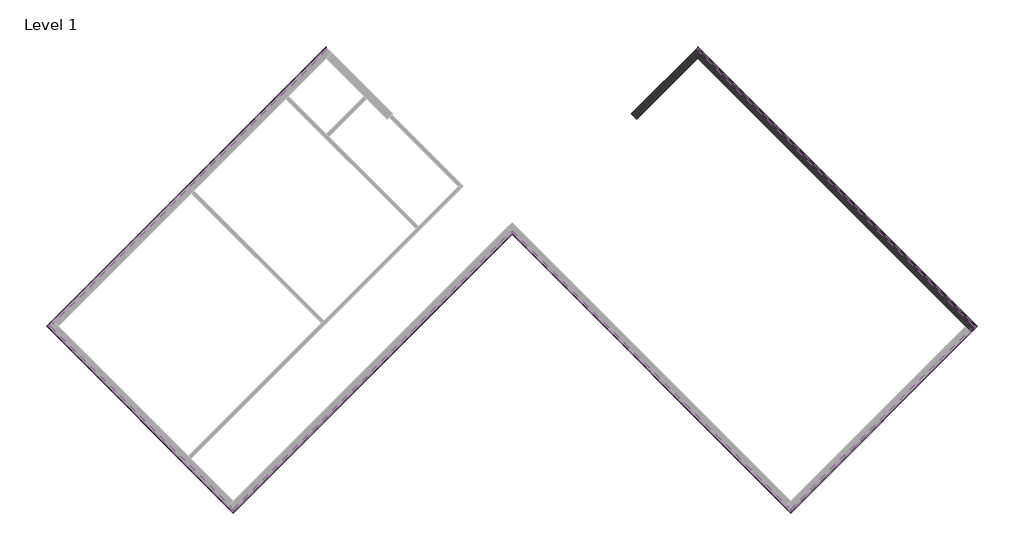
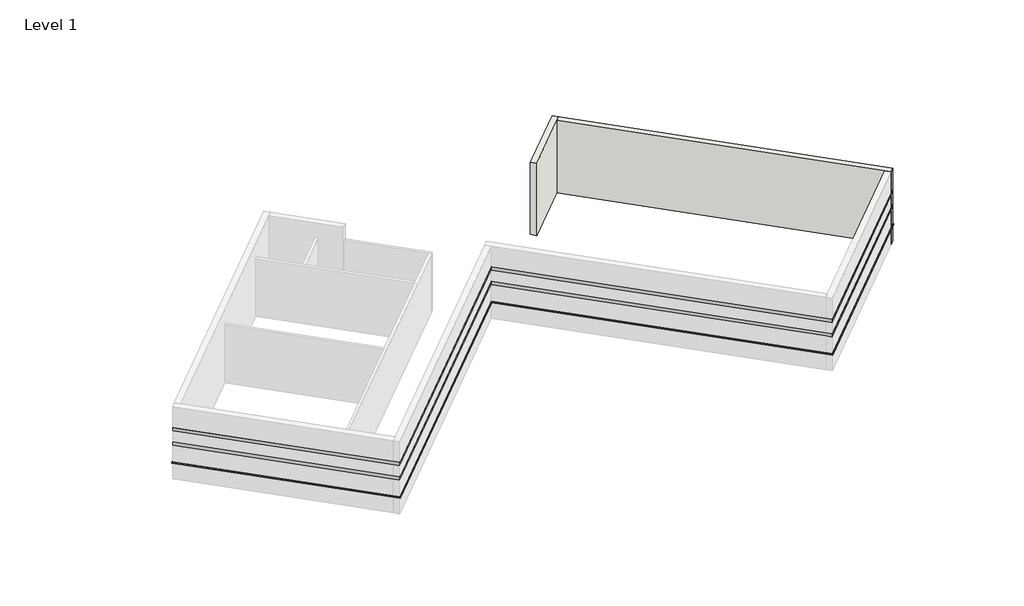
# One storey, part 2 of 2: 18 proxies, 2 walls.
"""IFC4 building model written with IfcOpenShell, lengths in millimetres."""

from ifc_helpers import new_model, si_unit, frame, origin, place, context, project, spatial, polyline, circle_curve, faceted_brep, element, save
from ifc_brep_helpers import plane_surface, cylinder_surface, revolved_surface, advanced_brep

model = new_model("IFC4")

# Units and contexts
model_context = context("Model", 3, world=origin())
ifc_project = project(units=[si_unit("LENGTHUNIT", "METRE", prefix="MILLI")], contexts=[model_context])

# Site, building, storey
site = spatial("IfcSite", under=ifc_project)
building = spatial("IfcBuilding", under=site)
storey = spatial("IfcBuildingStorey", under=building, Name="Level 1", Elevation=0.0)

# Proxies
placement = place(None, origin())
element("IfcBuildingElementProxy", 1, Name="Wall Sweeps", at=placement, inside=storey, context=model_context, shape_type="Brep", body=[
    faceted_brep([(5753.0175119, 11443.3655905, 1085.85), (5753.0175119, 11573.5793042, 1085.85), (5753.0175119, 11622.9707129, 1041.4), (5753.0175119, 11622.9707129, 1016.0), (5753.0175119, 11443.3655905, 1016.0), (18554.3726125, -1357.9895101, 1085.85), (18554.3726125, -1357.9895101, 1016.0), (18733.9777349, -1357.9895101, 1016.0), (18733.9777349, -1357.9895101, 1041.4), (18684.5863263, -1357.9895101, 1085.85), (5937.1127624, 11259.27034, 1085.85), (5937.1127624, 11259.27034, 1016.0)], [[[0, 1, 2, 3, 4]], [[5, 6, 7, 8, 9]], [[1, 0, 10, 5, 9]], [[2, 1, 9, 8]], [[3, 2, 8, 7]], [[4, 3, 7, 6, 11]], [[0, 4, 11, 6, 5, 10]]]),
])
element("IfcBuildingElementProxy", 2, Name="Wall Sweeps", at=placement, inside=storey, context=model_context, shape_type="Brep", body=[
    faceted_brep([(5753.0175119, 11573.5793042, 2336.8), (5753.0175119, 11573.5793042, 2133.6), (5753.0175119, 11443.3655905, 2133.6), (5753.0175119, 11443.3655905, 2336.8), (18684.5863263, -1357.9895101, 2336.8), (18554.3726125, -1357.9895101, 2336.8), (18554.3726125, -1357.9895101, 2133.6), (18684.5863263, -1357.9895101, 2133.6), (6002.2196193, 11324.3771969, 2336.8), (6002.2196193, 11324.3771969, 2133.6), (5937.1127624, 11259.27034, 2133.6), (5937.1127624, 11259.27034, 2336.8)], [[[0, 1, 2, 3]], [[4, 5, 6, 7]], [[1, 0, 8, 4, 7, 9]], [[2, 1, 9, 7, 6, 10]], [[3, 2, 10, 6, 5, 11]], [[0, 3, 11, 5, 4, 8]]]),
])
element("IfcBuildingElementProxy", 3, Name="Wall Sweeps", at=placement, inside=storey, context=model_context, shape_type="Brep", body=[
    faceted_brep([(5753.0175119, 11573.5793042, 3251.2), (5753.0175119, 11573.5793042, 3048.0), (5753.0175119, 11443.3655905, 3048.0), (5753.0175119, 11443.3655905, 3251.2), (18684.5863263, -1357.9895101, 3251.2), (18554.3726125, -1357.9895101, 3251.2), (18554.3726125, -1357.9895101, 3048.0), (18684.5863263, -1357.9895101, 3048.0), (6002.2196193, 11324.3771969, 3251.2), (6002.2196193, 11324.3771969, 3048.0), (5937.1127624, 11259.27034, 3048.0), (5937.1127624, 11259.27034, 3251.2)], [[[0, 1, 2, 3]], [[4, 5, 6, 7]], [[1, 0, 8, 4, 7, 9]], [[2, 1, 9, 7, 6, 10]], [[3, 2, 10, 6, 5, 11]], [[0, 3, 11, 5, 4, 8]]]),
])
element("IfcBuildingElementProxy", 4, Name="Wall Sweeps", at=placement, inside=storey, context=model_context, shape_type="Brep", body=[
    faceted_brep([(18554.3726125, -1357.9895101, 1085.85), (18684.5863263, -1357.9895101, 1085.85), (18733.9777349, -1357.9895101, 1041.4), (18733.9777349, -1357.9895101, 1016.0), (18554.3726125, -1357.9895101, 1016.0), (10063.54045, -9848.8216726, 1085.85), (10063.54045, -9848.8216726, 1016.0), (10063.54045, -10028.426795, 1016.0), (10063.54045, -10028.426795, 1041.4), (10063.54045, -9979.0353863, 1085.85), (18370.277362, -1542.0847606, 1085.85), (18370.277362, -1542.0847606, 1016.0)], [[[0, 1, 2, 3, 4]], [[5, 6, 7, 8, 9]], [[1, 0, 10, 5, 9]], [[2, 1, 9, 8]], [[3, 2, 8, 7]], [[4, 3, 7, 6, 11]], [[0, 4, 11, 6, 5, 10]]]),
])
element("IfcBuildingElementProxy", 5, Name="Wall Sweeps", at=placement, inside=storey, context=model_context, shape_type="Brep", body=[
    faceted_brep([(18684.5863263, -1357.9895101, 2336.8), (18684.5863263, -1357.9895101, 2133.6), (18554.3726125, -1357.9895101, 2133.6), (18554.3726125, -1357.9895101, 2336.8), (10063.54045, -9979.0353863, 2336.8), (10063.54045, -9848.8216726, 2336.8), (10063.54045, -9848.8216726, 2133.6), (10063.54045, -9979.0353863, 2133.6), (18435.3842189, -1607.1916175, 2336.8), (18435.3842189, -1607.1916175, 2133.6), (18370.277362, -1542.0847606, 2133.6), (18370.277362, -1542.0847606, 2336.8)], [[[0, 1, 2, 3]], [[4, 5, 6, 7]], [[1, 0, 8, 4, 7, 9]], [[2, 1, 9, 7, 6, 10]], [[3, 2, 10, 6, 5, 11]], [[0, 3, 11, 5, 4, 8]]]),
])
element("IfcBuildingElementProxy", 6, Name="Wall Sweeps", at=placement, inside=storey, context=model_context, shape_type="Brep", body=[
    faceted_brep([(18684.5863263, -1357.9895101, 3251.2), (18684.5863263, -1357.9895101, 3048.0), (18554.3726125, -1357.9895101, 3048.0), (18554.3726125, -1357.9895101, 3251.2), (10063.54045, -9979.0353863, 3251.2), (10063.54045, -9848.8216726, 3251.2), (10063.54045, -9848.8216726, 3048.0), (10063.54045, -9979.0353863, 3048.0), (18435.3842189, -1607.1916175, 3251.2), (18435.3842189, -1607.1916175, 3048.0), (18370.277362, -1542.0847606, 3048.0), (18370.277362, -1542.0847606, 3251.2)], [[[0, 1, 2, 3]], [[4, 5, 6, 7]], [[1, 0, 8, 4, 7, 9]], [[2, 1, 9, 7, 6, 10]], [[3, 2, 10, 6, 5, 11]], [[0, 3, 11, 5, 4, 8]]]),
])
element("IfcBuildingElementProxy", 7, Name="Wall Sweeps", at=placement, inside=storey, context=model_context, shape_type="Brep", body=[
    faceted_brep([(10063.54045, -9848.8216726, 1085.85), (10063.54045, -9979.0353863, 1085.85), (10063.54045, -10028.426795, 1041.4), (10063.54045, -10028.426795, 1016.0), (10063.54045, -9848.8216726, 1016.0), (-2868.0283643, 3082.7471418, 1085.85), (-2868.0283643, 3082.7471418, 1016.0), (-2868.0283643, 2903.1420194, 1016.0), (-2868.0283643, 2903.1420194, 1041.4), (-2868.0283643, 2952.533428, 1085.85), (9879.4451996, -9664.7264221, 1085.85), (9879.4451996, -9664.7264221, 1016.0)], [[[0, 1, 2, 3, 4]], [[5, 6, 7, 8, 9]], [[1, 0, 10, 5, 9]], [[2, 1, 9, 8]], [[3, 2, 8, 7]], [[4, 3, 7, 6, 11]], [[0, 4, 11, 6, 5, 10]]]),
])
element("IfcBuildingElementProxy", 8, Name="Wall Sweeps", at=placement, inside=storey, context=model_context, shape_type="Brep", body=[
    faceted_brep([(10063.54045, -9979.0353863, 2336.8), (10063.54045, -9979.0353863, 2133.6), (10063.54045, -9848.8216726, 2133.6), (10063.54045, -9848.8216726, 2336.8), (-2868.0283643, 2952.533428, 2336.8), (-2868.0283643, 3082.7471418, 2336.8), (-2868.0283643, 3082.7471418, 2133.6), (-2868.0283643, 2952.533428, 2133.6), (9814.3383427, -9729.833279, 2336.8), (9814.3383427, -9729.833279, 2133.6), (9879.4451996, -9664.7264221, 2133.6), (9879.4451996, -9664.7264221, 2336.8)], [[[0, 1, 2, 3]], [[4, 5, 6, 7]], [[1, 0, 8, 4, 7, 9]], [[2, 1, 9, 7, 6, 10]], [[3, 2, 10, 6, 5, 11]], [[0, 3, 11, 5, 4, 8]]]),
])
element("IfcBuildingElementProxy", 9, Name="Wall Sweeps", at=placement, inside=storey, context=model_context, shape_type="Brep", body=[
    faceted_brep([(10063.54045, -9979.0353863, 3251.2), (10063.54045, -9979.0353863, 3048.0), (10063.54045, -9848.8216726, 3048.0), (10063.54045, -9848.8216726, 3251.2), (-2868.0283643, 2952.533428, 3251.2), (-2868.0283643, 3082.7471418, 3251.2), (-2868.0283643, 3082.7471418, 3048.0), (-2868.0283643, 2952.533428, 3048.0), (9814.3383427, -9729.833279, 3251.2), (9814.3383427, -9729.833279, 3048.0), (9879.4451996, -9664.7264221, 3048.0), (9879.4451996, -9664.7264221, 3251.2)], [[[0, 1, 2, 3]], [[4, 5, 6, 7]], [[1, 0, 8, 4, 7, 9]], [[2, 1, 9, 7, 6, 10]], [[3, 2, 10, 6, 5, 11]], [[0, 3, 11, 5, 4, 8]]]),
])
element("IfcBuildingElementProxy", 10, Name="Wall Sweeps", at=placement, inside=storey, context=model_context, shape_type="Brep", body=[
    faceted_brep([(-2868.0283643, 3082.7471418, 1085.85), (-2868.0283643, 2952.533428, 1085.85), (-2868.0283643, 2903.1420194, 1041.4), (-2868.0283643, 2903.1420194, 1016.0), (-2868.0283643, 3082.7471418, 1016.0), (-15799.5971786, -9848.8216726, 1085.85), (-15799.5971786, -9848.8216726, 1016.0), (-15799.5971786, -10028.426795, 1016.0), (-15799.5971786, -10028.426795, 1041.4), (-15799.5971786, -9979.0353863, 1085.85), (-2933.1352212, 3017.6402849, 1085.85), (-2933.1352212, 3017.6402849, 1016.0)], [[[0, 1, 2, 3, 4]], [[5, 6, 7, 8, 9]], [[1, 0, 10, 5, 9]], [[2, 1, 9, 8]], [[3, 2, 8, 7]], [[4, 3, 7, 6, 11]], [[0, 4, 11, 6, 5, 10]]]),
])
element("IfcBuildingElementProxy", 11, Name="Wall Sweeps", at=placement, inside=storey, context=model_context, shape_type="Brep", body=[
    faceted_brep([(-2868.0283643, 2952.533428, 2336.8), (-2868.0283643, 2952.533428, 2133.6), (-2868.0283643, 3082.7471418, 2133.6), (-2868.0283643, 3082.7471418, 2336.8), (-15799.5971786, -9979.0353863, 2336.8), (-15799.5971786, -9848.8216726, 2336.8), (-15799.5971786, -9848.8216726, 2133.6), (-15799.5971786, -9979.0353863, 2133.6), (-2933.1352212, 3017.6402849, 2133.6), (-2933.1352212, 3017.6402849, 2336.8)], [[[0, 1, 2, 3]], [[4, 5, 6, 7]], [[1, 0, 4, 7]], [[2, 1, 7, 6, 8]], [[3, 2, 8, 6, 5, 9]], [[0, 3, 9, 5, 4]]]),
])
element("IfcBuildingElementProxy", 12, Name="Wall Sweeps", at=placement, inside=storey, context=model_context, shape_type="Brep", body=[
    faceted_brep([(-2868.0283643, 2952.533428, 3251.2), (-2868.0283643, 2952.533428, 3048.0), (-2868.0283643, 3082.7471418, 3048.0), (-2868.0283643, 3082.7471418, 3251.2), (-15799.5971786, -9979.0353863, 3251.2), (-15799.5971786, -9848.8216726, 3251.2), (-15799.5971786, -9848.8216726, 3048.0), (-15799.5971786, -9979.0353863, 3048.0), (-2933.1352212, 3017.6402849, 3048.0), (-2933.1352212, 3017.6402849, 3251.2)], [[[0, 1, 2, 3]], [[4, 5, 6, 7]], [[1, 0, 4, 7]], [[2, 1, 7, 6, 8]], [[3, 2, 8, 6, 5, 9]], [[0, 3, 9, 5, 4]]]),
])
element("IfcBuildingElementProxy", 13, Name="Wall Sweeps", at=placement, inside=storey, context=model_context, shape_type="Brep", body=[
    faceted_brep([(-15799.5971786, -9848.8216726, 1085.85), (-15799.5971786, -9979.0353863, 1085.85), (-15799.5971786, -10028.426795, 1041.4), (-15799.5971786, -10028.426795, 1016.0), (-15799.5971786, -9848.8216726, 1016.0), (-24290.4293411, -1357.9895101, 1085.85), (-24290.4293411, -1357.9895101, 1016.0), (-24470.0344635, -1357.9895101, 1016.0), (-24470.0344635, -1357.9895101, 1041.4), (-24420.6430549, -1357.9895101, 1085.85), (-15983.6924291, -9664.7264221, 1085.85), (-15983.6924291, -9664.7264221, 1016.0)], [[[0, 1, 2, 3, 4]], [[5, 6, 7, 8, 9]], [[1, 0, 10, 5, 9]], [[2, 1, 9, 8]], [[3, 2, 8, 7]], [[4, 3, 7, 6, 11]], [[0, 4, 11, 6, 5, 10]]]),
])
element("IfcBuildingElementProxy", 14, Name="Wall Sweeps", at=placement, inside=storey, context=model_context, shape_type="Brep", body=[
    faceted_brep([(-15799.5971786, -9979.0353863, 2336.8), (-15799.5971786, -9979.0353863, 2133.6), (-15799.5971786, -9848.8216726, 2133.6), (-15799.5971786, -9848.8216726, 2336.8), (-24420.6430549, -1357.9895101, 2336.8), (-24290.4293411, -1357.9895101, 2336.8), (-24290.4293411, -1357.9895101, 2133.6), (-24420.6430549, -1357.9895101, 2133.6), (-16048.799286, -9729.833279, 2336.8), (-16048.799286, -9729.833279, 2133.6), (-15983.6924291, -9664.7264221, 2133.6), (-15983.6924291, -9664.7264221, 2336.8)], [[[0, 1, 2, 3]], [[4, 5, 6, 7]], [[1, 0, 8, 4, 7, 9]], [[2, 1, 9, 7, 6, 10]], [[3, 2, 10, 6, 5, 11]], [[0, 3, 11, 5, 4, 8]]]),
])
element("IfcBuildingElementProxy", 15, Name="Wall Sweeps", at=placement, inside=storey, context=model_context, shape_type="Brep", body=[
    faceted_brep([(-15799.5971786, -9979.0353863, 3251.2), (-15799.5971786, -9979.0353863, 3048.0), (-15799.5971786, -9848.8216726, 3048.0), (-15799.5971786, -9848.8216726, 3251.2), (-24420.6430549, -1357.9895101, 3251.2), (-24290.4293411, -1357.9895101, 3251.2), (-24290.4293411, -1357.9895101, 3048.0), (-24420.6430549, -1357.9895101, 3048.0), (-16048.799286, -9729.833279, 3251.2), (-16048.799286, -9729.833279, 3048.0), (-15983.6924291, -9664.7264221, 3048.0), (-15983.6924291, -9664.7264221, 3251.2)], [[[0, 1, 2, 3]], [[4, 5, 6, 7]], [[1, 0, 8, 4, 7, 9]], [[2, 1, 9, 7, 6, 10]], [[3, 2, 10, 6, 5, 11]], [[0, 3, 11, 5, 4, 8]]]),
])
element("IfcBuildingElementProxy", 16, Name="Wall Sweeps", at=placement, inside=storey, context=model_context, shape_type="Brep", body=[
    faceted_brep([(-24290.4293411, -1357.9895101, 1085.85), (-24420.6430549, -1357.9895101, 1085.85), (-24470.0344635, -1357.9895101, 1041.4), (-24470.0344635, -1357.9895101, 1016.0), (-24290.4293411, -1357.9895101, 1016.0), (-11489.0742405, 11443.3655905, 1085.85), (-11489.0742405, 11443.3655905, 1016.0), (-11489.0742405, 11622.9707129, 1016.0), (-11489.0742405, 11622.9707129, 1041.4), (-11489.0742405, 11573.5793042, 1085.85), (-24106.3340906, -1173.8942596, 1085.85), (-24106.3340906, -1173.8942596, 1016.0)], [[[0, 1, 2, 3, 4]], [[5, 6, 7, 8, 9]], [[1, 0, 10, 5, 9]], [[2, 1, 9, 8]], [[3, 2, 8, 7]], [[4, 3, 7, 6, 11]], [[0, 4, 11, 6, 5, 10]]]),
])
element("IfcBuildingElementProxy", 17, Name="Wall Sweeps", at=placement, inside=storey, context=model_context, shape_type="Brep", body=[
    faceted_brep([(-24420.6430549, -1357.9895101, 2336.8), (-24420.6430549, -1357.9895101, 2133.6), (-24290.4293411, -1357.9895101, 2133.6), (-24290.4293411, -1357.9895101, 2336.8), (-11489.0742405, 11573.5793042, 2336.8), (-11489.0742405, 11443.3655905, 2336.8), (-11489.0742405, 11443.3655905, 2133.6), (-11489.0742405, 11573.5793042, 2133.6), (-24171.4409475, -1108.7874027, 2336.8), (-24171.4409475, -1108.7874027, 2133.6), (-24106.3340906, -1173.8942596, 2133.6), (-24106.3340906, -1173.8942596, 2336.8)], [[[0, 1, 2, 3]], [[4, 5, 6, 7]], [[1, 0, 8, 4, 7, 9]], [[2, 1, 9, 7, 6, 10]], [[3, 2, 10, 6, 5, 11]], [[0, 3, 11, 5, 4, 8]]]),
])
element("IfcBuildingElementProxy", 18, Name="Wall Sweeps", at=placement, inside=storey, context=model_context, shape_type="Brep", body=[
    faceted_brep([(-24420.6430549, -1357.9895101, 3251.2), (-24420.6430549, -1357.9895101, 3048.0), (-24290.4293411, -1357.9895101, 3048.0), (-24290.4293411, -1357.9895101, 3251.2), (-11489.0742405, 11573.5793042, 3251.2), (-11489.0742405, 11443.3655905, 3251.2), (-11489.0742405, 11443.3655905, 3048.0), (-11489.0742405, 11573.5793042, 3048.0), (-24171.4409475, -1108.7874027, 3251.2), (-24171.4409475, -1108.7874027, 3048.0), (-24106.3340906, -1173.8942596, 3048.0), (-24106.3340906, -1173.8942596, 3251.2)], [[[0, 1, 2, 3]], [[4, 5, 6, 7]], [[1, 0, 8, 4, 7, 9]], [[2, 1, 9, 7, 6, 10]], [[3, 2, 10, 6, 5, 11]], [[0, 3, 11, 5, 4, 8]]]),
])

# Walls
element("IfcWall", 19, ObjectType="Exterior - Split Face and CMU on Mtl. Stud", at=placement, inside=storey, context=model_context, shape_type="AdvancedBrep", body=[
    advanced_brep(
    [(2921.9555443, 8244.1131219, 0.0), (5753.0175119, 11075.1750895, 0.0), (6002.2196193, 11324.3771969, 0.0), (6002.2196193, 11324.3771969, 1016.0), (5937.1127624, 11259.27034, 1016.0), (5937.1127624, 11259.27034, 1085.85), (6002.2196193, 11324.3771969, 1085.85), (6002.2196193, 11324.3771969, 2133.6), (5937.1127624, 11259.27034, 2133.6), (5937.1127624, 11259.27034, 2336.8), (6002.2196193, 11324.3771969, 2336.8), (6002.2196193, 11324.3771969, 3048.0), (5937.1127624, 11259.27034, 3048.0), (5937.1127624, 11259.27034, 3251.2), (6002.2196193, 11324.3771969, 3251.2), (6002.2196193, 11324.3771969, 4572.0), (5753.0175119, 11075.1750895, 4572.0), (2921.9555443, 8244.1131219, 4572.0), (2677.2250436, 8497.7868359, 4572.0), (2926.4294954, 8746.9912878, 4572.0), (5753.0175119, 11573.5793042, 4572.0), (5753.0175119, 11573.5793042, 3251.2), (2926.4294954, 8746.9912878, 3251.2), (2861.3220456, 8681.8838379, 3251.2), (2861.3220456, 8681.8838379, 3048.0), (2926.4294954, 8746.9912878, 3048.0), (5753.0175119, 11573.5793042, 3048.0), (5753.0175119, 11573.5793042, 2336.8), (2926.4294954, 8746.9912878, 2336.8), (2861.3220456, 8681.8838379, 2336.8), (2861.3220456, 8681.8838379, 2133.6), (2926.4294954, 8746.9912878, 2133.6), (5753.0175119, 11573.5793042, 2133.6), (5753.0175119, 11573.5793042, 1085.85), (2926.4294954, 8746.9912878, 1085.85), (2861.3220456, 8681.8838379, 1085.85), (2861.3220456, 8681.8838379, 1016.0), (2926.4294954, 8746.9912878, 1016.0), (5753.0175119, 11573.5793042, 1016.0), (5753.0175119, 11573.5793042, 0.0), (2926.4294954, 8746.9912878, 0.0), (2677.2250436, 8497.7868359, 0.0), (5818.1243688, 11508.4724474, 0.0), (2742.2400511, 8432.5881297, 0.0), (5753.0175119, 11443.3655905, 1085.85), (2926.3399919, 8616.6880705, 1085.85), (2926.3399919, 8616.6880705, 1016.0), (5753.0175119, 11443.3655905, 1016.0), (2926.3399919, 8616.6880705, 2133.6), (5753.0175119, 11443.3655905, 2133.6), (2926.3399919, 8616.6880705, 2336.8), (5753.0175119, 11443.3655905, 2336.8), (2926.3399919, 8616.6880705, 3048.0), (5753.0175119, 11443.3655905, 3048.0), (2926.3399919, 8616.6880705, 3251.2), (5753.0175119, 11443.3655905, 3251.2)],
    [
        (0, 1),
        (1, 2),
        (2, 3),
        (3, 4),
        (4, 5),
        (5, 6),
        (6, 7),
        (7, 8),
        (8, 9),
        (9, 10),
        (10, 11),
        (11, 12),
        (12, 13),
        (13, 14),
        (14, 15),
        (15, 16),
        (16, 17),
        (17, 0),
        (18, 19),
        (19, 20),
        (20, 21),
        (21, 22),
        (22, 23),
        (23, 24),
        (24, 25),
        (25, 26),
        (26, 27),
        (27, 28),
        (28, 29),
        (29, 30),
        (30, 31),
        (31, 32),
        (32, 33),
        (33, 34),
        (34, 35),
        (35, 36),
        (36, 37),
        (37, 38),
        (38, 39),
        (39, 40),
        (40, 41),
        (41, 18),
        (15, 20),
        (18, 17, circle_curve(frame((-2868.0283643, 2903.1420194, 4572.0), z_axis=(0.0, 0.0, -1.0), x_axis=(1.0, 0.0, 0.0)), 7877.175)),
        (14, 21),
        (2, 42),
        (42, 39),
        (38, 3),
        (6, 33),
        (32, 7),
        (10, 27),
        (26, 11),
        (41, 43, circle_curve(frame((-2868.0283643, 2903.1420194, 0.0), z_axis=(0.0, 0.0, -1.0), x_axis=(1.0, 0.0, 0.0)), 7877.175)),
        (43, 0, circle_curve(frame((-2868.0283643, 2903.1420194, 0.0), z_axis=(0.0, 0.0, -1.0), x_axis=(1.0, 0.0, 0.0)), 7877.175)),
        (43, 42),
        (44, 45),
        (45, 35, circle_curve(frame((-2868.0283643, 2903.1420194, 1085.85), z_axis=(0.0, 0.0, 1.0), x_axis=(-0.7040995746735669, 0.7101012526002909, 0.0)), 8137.525)),
        (5, 44),
        (46, 47),
        (47, 4),
        (36, 46, circle_curve(frame((-2868.0283643, 2903.1420194, 1016.0), z_axis=(0.0, 0.0, -1.0), x_axis=(-0.7040995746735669, 0.7101012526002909, 0.0)), 8137.525)),
        (45, 46),
        (44, 47),
        (48, 49),
        (49, 8),
        (30, 48, circle_curve(frame((-2868.0283643, 2903.1420194, 2133.6), z_axis=(0.0, 0.0, -1.0), x_axis=(-0.7040995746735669, 0.7101012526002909, 0.0)), 8137.525)),
        (50, 48),
        (29, 50, circle_curve(frame((-2868.0283643, 2903.1420194, 2336.8), z_axis=(0.0, 0.0, -1.0), x_axis=(-0.7040995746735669, 0.7101012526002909, 0.0)), 8137.525)),
        (51, 50),
        (9, 51),
        (51, 49),
        (52, 53),
        (53, 12),
        (24, 52, circle_curve(frame((-2868.0283643, 2903.1420194, 3048.0), z_axis=(0.0, 0.0, -1.0), x_axis=(-0.7040995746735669, 0.7101012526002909, 0.0)), 8137.525)),
        (54, 52),
        (23, 54, circle_curve(frame((-2868.0283643, 2903.1420194, 3251.2), z_axis=(0.0, 0.0, -1.0), x_axis=(-0.7040995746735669, 0.7101012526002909, 0.0)), 8137.525)),
        (55, 54),
        (13, 55),
        (55, 53),
    ],
    [
        plane_surface(frame((2984.8535626, 8307.0111402, 0.0), z_axis=(0.707106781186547, -0.7071067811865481, 0.0), x_axis=(0.7071067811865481, 0.707106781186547, 0.0))),
        plane_surface(frame((2735.6514552, 8556.2132476, 0.0), z_axis=(-0.707106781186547, 0.7071067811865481, 0.0), x_axis=(-0.7071067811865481, -0.707106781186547, 0.0))),
        plane_surface(frame((5877.6185656, 11199.7761432, 4572.0), z_axis=(0.0, 0.0, 1.0), x_axis=(-0.707106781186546, 0.7071067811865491, 0.0))),
        plane_surface(frame((5753.0175119, 11573.5793042, 0.0), z_axis=(0.7071067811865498, 0.7071067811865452, 0.0), x_axis=(-0.7071067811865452, 0.7071067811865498, 0.0))),
        revolved_surface(polyline([(5009.146635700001, 2903.1420194, 0.0), (5009.146635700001, 2903.1420194, 4572.0)]), (-2868.0283643, 2903.1420194, 0.0), (0.0, 0.0, -1.0)),
        plane_surface(frame((3050.2065213, 8372.3640989, 0.0), z_axis=(0.0, 0.0, -1.0000000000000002), x_axis=(-0.7071067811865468, 0.7071067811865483, 0.0))),
        plane_surface(frame((0.0, 0.0, 0.0), z_axis=(0.0, 0.0, -1.0), x_axis=(1.0, 0.0, 0.0))),
        plane_surface(frame((-2868.0283643, 2903.1420194, 1085.85), z_axis=(0.0, 0.0, -1.0), x_axis=(-0.7040995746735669, 0.7101012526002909, 0.0))),
        plane_surface(frame((-2868.0283643, 2903.1420194, 1016.0), z_axis=(0.0, 0.0, 1.0), x_axis=(-0.7040995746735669, 0.7101012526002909, 0.0))),
        cylinder_surface(frame((-2868.0283643, 2903.1420194, 1016.0), z_axis=(0.0, 0.0, -1.0), x_axis=(-0.7040995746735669, 0.7101012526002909, 0.0)), 8137.525),
        plane_surface(frame((2926.3399919, 8616.6880705, 1016.0), z_axis=(-0.7071067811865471, 0.707106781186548, 0.0), x_axis=(0.707106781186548, 0.7071067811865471, 0.0))),
        plane_surface(frame((5753.0175119, 11443.3655905, 1016.0), z_axis=(0.70710678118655, 0.7071067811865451, 0.0), x_axis=(0.7071067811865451, -0.70710678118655, 0.0))),
        plane_surface(frame((-2868.0283643, 2903.1420194, 2133.6), z_axis=(0.0, 0.0, 1.0), x_axis=(-0.7040995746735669, 0.7101012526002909, 0.0))),
        cylinder_surface(frame((-2868.0283643, 2903.1420194, 2133.6), z_axis=(0.0, 0.0, -1.0), x_axis=(-0.7040995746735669, 0.7101012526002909, 0.0)), 8137.525),
        plane_surface(frame((-2868.0283643, 2903.1420194, 2336.8), z_axis=(0.0, 0.0, -1.0), x_axis=(-0.7040995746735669, 0.7101012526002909, 0.0))),
        plane_surface(frame((2926.3399919, 8616.6880705, 2133.6), z_axis=(-0.7071067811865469, 0.7071067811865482, 0.0), x_axis=(0.7071067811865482, 0.7071067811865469, 0.0))),
        plane_surface(frame((5753.0175119, 11443.3655905, 2133.6), z_axis=(0.7071067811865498, 0.7071067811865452, 0.0), x_axis=(0.7071067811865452, -0.7071067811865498, 0.0))),
        plane_surface(frame((-2868.0283643, 2903.1420194, 3048.0), z_axis=(0.0, 0.0, 1.0), x_axis=(-0.7040995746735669, 0.7101012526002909, 0.0))),
        cylinder_surface(frame((-2868.0283643, 2903.1420194, 3048.0), z_axis=(0.0, 0.0, -1.0), x_axis=(-0.7040995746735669, 0.7101012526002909, 0.0)), 8137.525),
        plane_surface(frame((-2868.0283643, 2903.1420194, 3251.2), z_axis=(0.0, 0.0, -1.0), x_axis=(-0.7040995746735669, 0.7101012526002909, 0.0))),
        plane_surface(frame((2926.3399919, 8616.6880705, 3048.0), z_axis=(-0.7071067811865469, 0.7071067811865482, 0.0), x_axis=(0.7071067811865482, 0.7071067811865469, 0.0))),
        plane_surface(frame((5753.0175119, 11443.3655905, 3048.0), z_axis=(0.7071067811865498, 0.7071067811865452, 0.0), x_axis=(0.7071067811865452, -0.7071067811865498, 0.0))),
    ],
    [
        (0, [[1, 2, 3, 4, 5, 6, 7, 8, 9, 10, 11, 12, 13, 14, 15, 16, 17, 18]]),
        (1, [[19, 20, 21, 22, 23, 24, 25, 26, 27, 28, 29, 30, 31, 32, 33, 34, 35, 36, 37, 38, 39, 40, 41, 42]]),
        (2, [[-17, -16, 43, -20, -19, 44]]),
        (3, [[-43, -15, 45, -21]]),
        (3, [[46, 47, -39, 48, -3]]),
        (3, [[49, -33, 50, -7]]),
        (3, [[51, -27, 52, -11]]),
        (4, [[-18, -44, -42, 53, 54]]),
        (5, [[-2, -1, -54, 55, -46]]),
        (6, [[-53, -41, -40, -47, -55]]),
        (7, [[56, 57, -35, -34, -49, -6, 58]]),
        (8, [[59, 60, -4, -48, -38, -37, 61]]),
        (9, [[62, -61, -36, -57]]),
        (10, [[-56, 63, -59, -62]]),
        (11, [[-63, -58, -5, -60]]),
        (12, [[64, 65, -8, -50, -32, -31, 66]]),
        (13, [[67, -66, -30, 68]]),
        (14, [[69, -68, -29, -28, -51, -10, 70]]),
        (15, [[-64, -67, -69, 71]]),
        (16, [[-71, -70, -9, -65]]),
        (17, [[72, 73, -12, -52, -26, -25, 74]]),
        (18, [[75, -74, -24, 76]]),
        (19, [[77, -76, -23, -22, -45, -14, 78]]),
        (20, [[-72, -75, -77, 79]]),
        (21, [[-79, -78, -13, -73]]),
    ],
),
])
element("IfcWall", 20, ObjectType="Exterior - Split Face and CMU on Mtl. Stud", at=placement, inside=storey, context=model_context, shape_type="Brep", body=[
    faceted_brep([(5753.0175119, 11075.1750895, 0.0), (18186.1821115, -1357.9895101, 0.0), (18435.3842189, -1607.1916175, 0.0), (18435.3842189, -1607.1916175, 1016.0), (18370.277362, -1542.0847606, 1016.0), (18370.277362, -1542.0847606, 1085.85), (18435.3842189, -1607.1916175, 1085.85), (18435.3842189, -1607.1916175, 2133.6), (18370.277362, -1542.0847606, 2133.6), (18370.277362, -1542.0847606, 2336.8), (18435.3842189, -1607.1916175, 2336.8), (18435.3842189, -1607.1916175, 3048.0), (18370.277362, -1542.0847606, 3048.0), (18370.277362, -1542.0847606, 3251.2), (18435.3842189, -1607.1916175, 3251.2), (18435.3842189, -1607.1916175, 4572.0), (18186.1821115, -1357.9895101, 4572.0), (5753.0175119, 11075.1750895, 4572.0), (6002.2196193, 11324.3771969, 4572.0), (18684.5863263, -1357.9895101, 4572.0), (18684.5863263, -1357.9895101, 3251.2), (6002.2196193, 11324.3771969, 3251.2), (18684.5863263, -1357.9895101, 0.0), (6002.2196193, 11324.3771969, 0.0), (6002.2196193, 11324.3771969, 1016.0), (18684.5863263, -1357.9895101, 1016.0), (18684.5863263, -1357.9895101, 1085.85), (6002.2196193, 11324.3771969, 1085.85), (6002.2196193, 11324.3771969, 2133.6), (18684.5863263, -1357.9895101, 2133.6), (18684.5863263, -1357.9895101, 2336.8), (6002.2196193, 11324.3771969, 2336.8), (6002.2196193, 11324.3771969, 3048.0), (18684.5863263, -1357.9895101, 3048.0), (18619.4794694, -1423.096367, 0.0), (5937.1127624, 11259.27034, 3251.2), (5937.1127624, 11259.27034, 3048.0), (5937.1127624, 11259.27034, 2336.8), (5937.1127624, 11259.27034, 2133.6), (5937.1127624, 11259.27034, 1085.85), (5937.1127624, 11259.27034, 1016.0), (5937.1127624, 11259.27034, 0.0), (18554.3726125, -1357.9895101, 1085.85), (18554.3726125, -1357.9895101, 1016.0), (18554.3726125, -1357.9895101, 2133.6), (18554.3726125, -1357.9895101, 2336.8), (18554.3726125, -1357.9895101, 3048.0), (18554.3726125, -1357.9895101, 3251.2)], [[[0, 1, 2, 3, 4, 5, 6, 7, 8, 9, 10, 11, 12, 13, 14, 15, 16, 17]], [[18, 19, 20, 21]], [[22, 23, 24, 25]], [[26, 27, 28, 29]], [[30, 31, 32, 33]], [[17, 16, 15, 19, 18]], [[19, 15, 14, 20]], [[2, 34, 22, 25, 3]], [[6, 26, 29, 7]], [[10, 30, 33, 11]], [[0, 17, 18, 21, 35, 36, 32, 31, 37, 38, 28, 27, 39, 40, 24, 23, 41]], [[2, 1, 0, 41, 34]], [[41, 23, 22, 34]], [[5, 42, 39, 27, 26, 6]], [[40, 43, 4, 3, 25, 24]], [[42, 43, 40, 39]], [[43, 42, 5, 4]], [[38, 44, 8, 7, 29, 28]], [[9, 45, 37, 31, 30, 10]], [[45, 44, 38, 37]], [[44, 45, 9, 8]], [[36, 46, 12, 11, 33, 32]], [[13, 47, 35, 21, 20, 14]], [[47, 46, 36, 35]], [[46, 47, 13, 12]]]),
])

save(model, "model.ifc")
